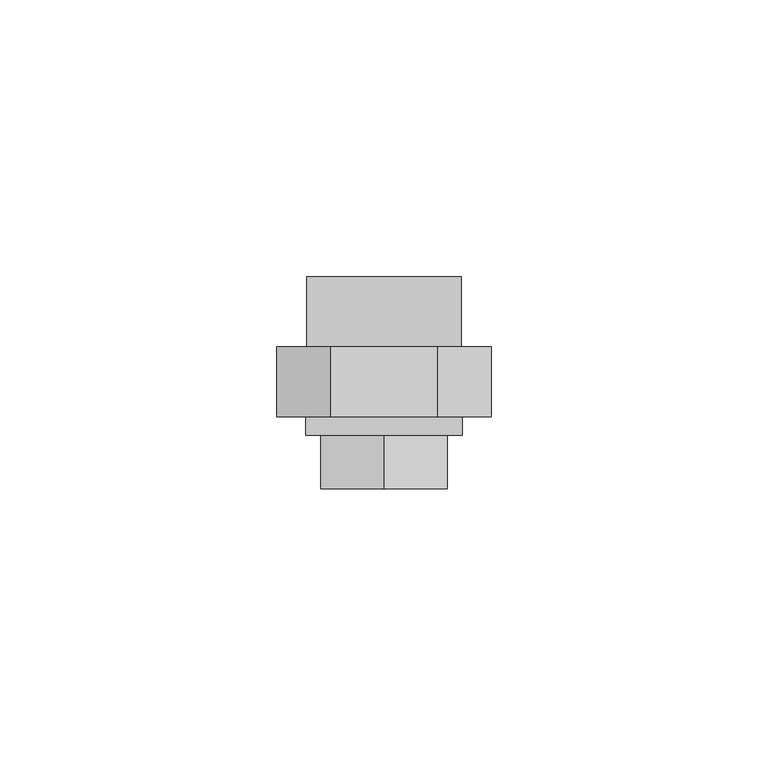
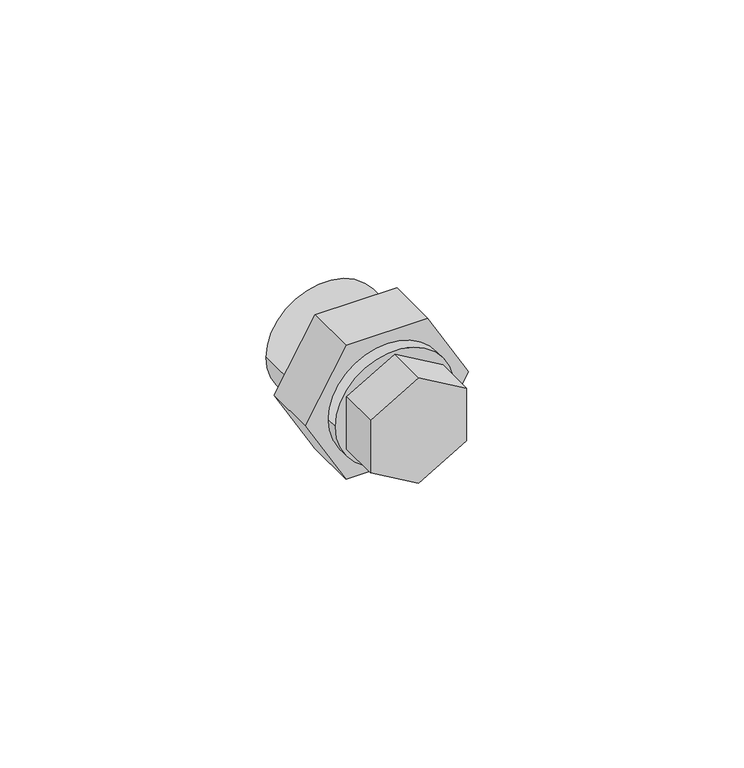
"""IFC4 building model written with IfcOpenShell, lengths in millimetres: pipe fitting geometry, EGB_VASEN_ PPR_Enlace desmontable rosca hembra WXR104 : Enlace desmontable rosca hembra WXR104."""

from ifc_helpers import new_model, si_unit, point, frame, origin, origin_2d, place, context, project, spatial, polyline, circle_curve, trimmed, segment, composite_curve, outline, extrude, source, transform, mapped, element, save


def pipe_fitting_2586d403(model_context):
    return source(origin(), model_context, "Body", "SweptSolid", [
        extrude(outline(polyline([(-6.5991136, -11.43), (-13.1982272, 0.0), (-6.5991136, 11.43), (6.5991136, 11.43), (13.1982272, 0.0), (6.5991136, -11.43), (-6.5991136, -11.43)])), frame((0.0, -25.0879167, 0.0), z_axis=(0.0, 1.0, 0.0), x_axis=(0.0, 0.0, 1.0)), (0.0, 0.0, 1.0), 9.6666667),
        extrude(outline(polyline([(0.0, 19.398969), (16.8, 9.6994845), (16.8, -9.6994845), (0.0, -19.398969), (-16.8, -9.6994845), (-16.8, 9.6994845), (0.0, 19.398969)])), frame((0.0, -12.05375, 0.0), z_axis=(0.0, 1.0, 0.0), x_axis=(0.0, 0.0, 1.0)), (0.0, 0.0, 1.0), 12.6666667),
        extrude(outline(composite_curve([segment(trimmed(circle_curve(origin_2d(), 14.115), [point((0.0, -14.115))], [point((0.0, 14.115))], False, "CARTESIAN"), True, "CONTINUOUS"), segment(trimmed(circle_curve(origin_2d(), 14.115), [point((0.0, 14.115))], [point((0.0, -14.115))], False, "CARTESIAN"), True, "CONTINUOUS")], self_intersect=False)), frame((0.0, -15.42125, 0.0), z_axis=(0.0, 1.0, 0.0), x_axis=(0.0, 0.0, 1.0)), (0.0, 0.0, 1.0), 3.3675),
        extrude(outline(composite_curve([segment(trimmed(circle_curve(origin_2d(), 14.0), [point((0.0, -14.0))], [point((0.0, 14.0))], False, "CARTESIAN"), True, "CONTINUOUS"), segment(trimmed(circle_curve(origin_2d(), 14.0), [point((0.0, 14.0))], [point((0.0, -14.0))], False, "CARTESIAN"), True, "CONTINUOUS")], self_intersect=False), holes=[composite_curve([segment(trimmed(circle_curve(origin_2d(), 10.0), [point((0.0, -10.0))], [point((0.0, 10.0))], True, "CARTESIAN"), True, "CONTINUOUS"), segment(trimmed(circle_curve(origin_2d(), 10.0), [point((0.0, 10.0))], [point((0.0, -10.0))], True, "CARTESIAN"), True, "CONTINUOUS")], self_intersect=False)]), frame((0.0, 0.6129167, 0.0), z_axis=(0.0, 1.0, 0.0), x_axis=(0.0, 0.0, 1.0)), (0.0, 0.0, 1.0), 12.6666667),
    ])


if __name__ == "__main__":
    model = new_model("IFC4")
    model_context = context("Model", 3, world=origin())
    ifc_project = project(units=[si_unit("LENGTHUNIT", "METRE", prefix="MILLI")], contexts=[model_context])
    site = spatial("IfcSite", under=ifc_project)
    building = spatial("IfcBuilding", under=site)
    placement = place(None, origin())
    pipe_fitting_shape = pipe_fitting_2586d403(model_context)
    element("IfcPipeFitting", 1, ObjectType="EGB_VASEN_ PPR_Enlace desmontable rosca hembra WXR104 : Enlace desmontable rosca hembra WXR104", at=placement, inside=building, context=model_context, shape_type="MappedRepresentation", body=[
        mapped(pipe_fitting_shape, transform((0.0, 0.0, 0.0), x_axis=(1.0, 0.0, 0.0), y_axis=(0.0, 1.0, 0.0), z_axis=(0.0, 0.0, 1.0))),
    ])
    save(model, "model.ifc")
